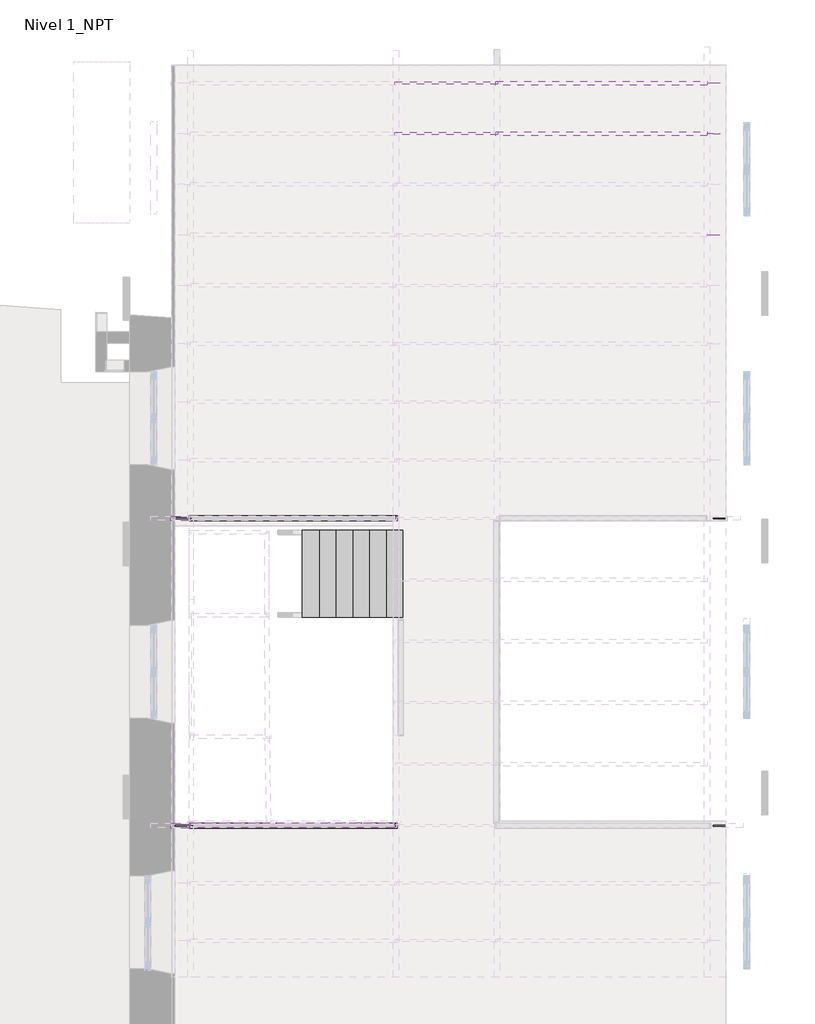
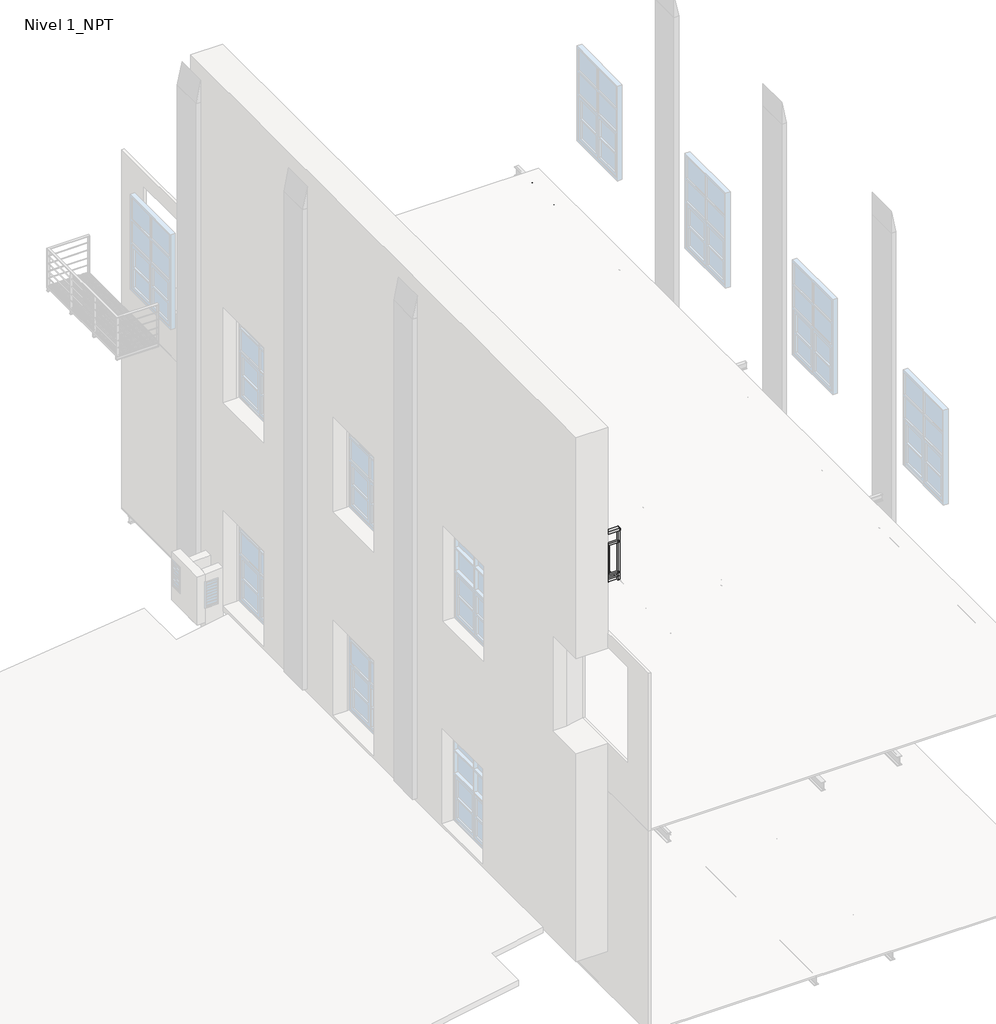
# One storey, part 4 of 6: 11 beams, 9 railings, 1 stair flight.
"""IFC4 building model written with IfcOpenShell, lengths in millimetres."""

from ifc_helpers import new_model, si_unit, point, frame, frame_2d, origin, place, context, project, spatial, polyline, circle_curve, trimmed, segment, composite_curve, outline, extrude, faceted_brep, transform, mapped, element, save
from components import est_perf_ace_est_perf_ace_652393f0, ipn_140_a066fb9f, ipn_140_caa7bbf7, est_vi_ipn_140_41f6773e, ipn_80_bbd9ff88, ipn_80_dc9e7507, railing_5429e01b, railing_628c0022, railing_fbd68230, railing_c106fec5, stair_flight_f9d3aef3

model = new_model("IFC4")

# Units and contexts
model_context = context("Model", 3, world=origin())
ifc_project = project(units=[si_unit("LENGTHUNIT", "METRE", prefix="MILLI")], contexts=[model_context])

# Site, building, storey
site = spatial("IfcSite", under=ifc_project)
building = spatial("IfcBuilding", under=site)
storey = spatial("IfcBuildingStorey", under=building, Name="Nivel 1_NPT", Elevation=4940.0)

# Beams
placement = place(None, origin())
est_perf_ace_est_perf_ace_shape = est_perf_ace_est_perf_ace_652393f0(model_context)
element("IfcBeam", 1, ObjectType="EST-PERF-Ace : EST-PERF-Ace", at=placement, inside=storey, context=model_context, shape_type="MappedRepresentation", body=[
    mapped(est_perf_ace_est_perf_ace_shape, transform((14664.8126262, 11007.1072273, 9500.0), x_axis=(0.0, -1.0, 0.0), y_axis=(1.0, 0.0, 0.0), z_axis=(0.0, 0.0, 1.0))),
])
element("IfcBeam", 2, ObjectType="EST-PERF-Ace : EST-PERF-Ace", at=placement, inside=storey, context=model_context, shape_type="MappedRepresentation", body=[
    mapped(est_perf_ace_est_perf_ace_shape, transform((14664.8126262, 12638.1072273, 9500.0), x_axis=(0.0, -1.0, 0.0), y_axis=(1.0, 0.0, 0.0), z_axis=(0.0, 0.0, 1.0))),
])
element("IfcBeam", 3, ObjectType="EST-PERF-Ace : EST-PERF-Ace", at=placement, inside=storey, context=model_context, shape_type="MappedRepresentation", body=[
    mapped(est_perf_ace_est_perf_ace_shape, transform((14664.8126262, 13453.6072273, 9500.0), x_axis=(0.0, -1.0, 0.0), y_axis=(1.0, 0.0, 0.0), z_axis=(0.0, 0.0, 1.0))),
])
ipn_140_shape = ipn_140_a066fb9f(model_context)
element("IfcBeam", 4, ObjectType="IPN - Secciones en I con alas cónicas : IPN 140", at=placement, inside=storey, context=model_context, shape_type="MappedRepresentation", body=[
    mapped(ipn_140_shape, transform((13119.8126262, 12638.1072273, 4840.0), x_axis=(1.0, 0.0, 0.0), y_axis=(0.0, 1.0, 0.0), z_axis=(0.0, 0.0, 1.0))),
])
ipn_140_2_shape = ipn_140_caa7bbf7(model_context)
element("IfcBeam", 5, ObjectType="IPN - Secciones en I con alas cónicas : IPN 140", at=placement, inside=storey, context=model_context, shape_type="MappedRepresentation", body=[
    mapped(ipn_140_2_shape, transform((13054.2181823, 13453.6072273, 4840.0), x_axis=(1.0, 0.0, 0.0), y_axis=(0.0, 1.0, 0.0), z_axis=(0.0, 0.0, 1.0))),
])
est_vi_ipn_140_shape = est_vi_ipn_140_41f6773e(model_context)
element("IfcBeam", 6, ObjectType="IPN - Secciones en I con alas cónicas : IPN 140", at=placement, inside=storey, context=model_context, shape_type="MappedRepresentation", body=[
    mapped(est_vi_ipn_140_shape, transform((12969.8126262, 13453.6072273, 9400.0), x_axis=(1.0, 0.0, 0.0), y_axis=(0.0, 1.0, 0.0), z_axis=(0.0, 0.0, 1.0))),
])
element("IfcBeam", 7, ObjectType="IPN - Secciones en I con alas cónicas : IPN 140", at=placement, inside=storey, context=model_context, shape_type="MappedRepresentation", body=[
    mapped(est_vi_ipn_140_shape, transform((12969.8126262, 12638.1072273, 9400.0), x_axis=(1.0, 0.0, 0.0), y_axis=(0.0, 1.0, 0.0), z_axis=(0.0, 0.0, 1.0))),
])
ipn_80_shape = ipn_80_bbd9ff88(model_context)
element("IfcBeam", 8, ObjectType="IPN - Secciones en I con alas cónicas : IPN 80", at=placement, inside=storey, context=model_context, shape_type="MappedRepresentation", body=[
    mapped(ipn_80_shape, transform((10459.8126262, 12638.1072273, 4870.0), x_axis=(1.0, 0.0, 0.0), y_axis=(0.0, 1.0, 0.0), z_axis=(0.0, 0.0, 1.0))),
])
element("IfcBeam", 9, ObjectType="IPN - Secciones en I con alas cónicas : IPN 80", at=placement, inside=storey, context=model_context, shape_type="MappedRepresentation", body=[
    mapped(ipn_80_shape, transform((10459.8126262, 13453.6072273, 9430.0), x_axis=(1.0, 0.0, 0.0), y_axis=(0.0, 1.0, 0.0), z_axis=(0.0, 0.0, 1.0))),
])
element("IfcBeam", 10, ObjectType="IPN - Secciones en I con alas cónicas : IPN 80", at=placement, inside=storey, context=model_context, shape_type="MappedRepresentation", body=[
    mapped(ipn_80_shape, transform((10459.8126262, 12638.1072273, 9430.0), x_axis=(1.0, 0.0, 0.0), y_axis=(0.0, 1.0, 0.0), z_axis=(0.0, 0.0, 1.0))),
])
ipn_80_2_shape = ipn_80_dc9e7507(model_context)
element("IfcBeam", 11, ObjectType="IPN - Secciones en I con alas cónicas : IPN 80", at=placement, inside=storey, context=model_context, shape_type="MappedRepresentation", body=[
    mapped(ipn_80_2_shape, transform((10452.8126262, 13453.6072273, 4870.0), x_axis=(1.0, 0.0, 0.0), y_axis=(0.0, 1.0, 0.0), z_axis=(0.0, 0.0, 1.0))),
])

# Railings
element("IfcRailing", 12, ObjectType="ARQ-BA-IN-118-Hi-Ba1", at=placement, inside=storey, context=model_context, shape_type="SolidModel", body=[
    faceted_brep([(9664.8126262, 1444.5940615, 6120.0), (9664.8126262, 1444.5940615, 6070.0), (9664.8126262, 1524.5940615, 6070.0), (9664.8126262, 1524.5940615, 6120.0), (9644.8126262, 1444.5940615, 6120.0), (9644.8126262, 1444.5940615, 6070.0), (9644.8126262, 1524.5940615, 6070.0), (9644.8126262, 1524.5940615, 6120.0), (6335.090709, 1444.5940615, 6120.0), (6335.090709, 1444.5940615, 6070.0), (6335.090709, 1524.5940615, 6070.0), (6335.090709, 1524.5940615, 6120.0), (6315.090709, 1444.5940615, 6120.0), (6315.090709, 1524.5940615, 6120.0), (6315.090709, 1524.5940615, 6070.0), (6315.090709, 1444.5940615, 6070.0)], [[[0, 1, 2, 3]], [[1, 0, 4, 5]], [[2, 1, 5, 6]], [[3, 2, 6, 7]], [[0, 3, 7, 4]], [[5, 4, 8, 9]], [[6, 5, 9, 10]], [[7, 6, 10, 11]], [[4, 7, 11, 8]], [[12, 13, 14, 15]], [[9, 8, 12, 15]], [[10, 9, 15, 14]], [[11, 10, 14, 13]], [[8, 11, 13, 12]]]),
    extrude(outline(polyline([(9644.8126262, 1504.5940615), (9644.8126262, 1464.5940615), (6335.090709, 1464.5940615), (6335.090709, 1504.5940615), (9644.8126262, 1504.5940615)])), frame((0.0, 0.0, 5800.0), z_axis=(0.0, 0.0, 1.0), x_axis=(1.0, 0.0, 0.0)), (0.0, 0.0, 1.0), 40.0),
    extrude(outline(polyline([(9644.8126262, 1504.5940615), (9644.8126262, 1464.5940615), (6335.090709, 1464.5940615), (6335.090709, 1504.5940615), (9644.8126262, 1504.5940615)])), frame((0.0, 0.0, 5100.0), z_axis=(0.0, 0.0, 1.0), x_axis=(1.0, 0.0, 0.0)), (0.0, 0.0, 1.0), 40.0),
    extrude(outline(polyline([(9644.8126262, 1504.5940615), (9644.8126262, 1464.5940615), (6335.090709, 1464.5940615), (6335.090709, 1504.5940615), (9644.8126262, 1504.5940615)])), frame((0.0, 0.0, 5034.0), z_axis=(0.0, 0.0, 1.0), x_axis=(1.0, 0.0, 0.0)), (0.0, 0.0, 1.0), 6.0),
    extrude(outline(composite_curve([segment(trimmed(circle_curve(frame_2d((6541.9483288, 1484.5940615)), 10.0), [point((6541.9483288, 1474.5940615))], [point((6541.9483288, 1494.5940615))], False, "CARTESIAN"), True, "CONTINUOUS"), segment(trimmed(circle_curve(frame_2d((6541.9483288, 1484.5940615)), 10.0), [point((6541.9483288, 1494.5940615))], [point((6541.9483288, 1474.5940615))], False, "CARTESIAN"), True, "CONTINUOUS")], self_intersect=False)), frame((0.0, 0.0, 5140.0), z_axis=(0.0, 0.0, 1.0), x_axis=(1.0, 0.0, 0.0)), (0.0, 0.0, 1.0), 660.0),
    extrude(outline(composite_curve([segment(trimmed(circle_curve(frame_2d((6748.8059486, 1484.5940615)), 10.0), [point((6748.8059486, 1474.5940615))], [point((6748.8059486, 1494.5940615))], False, "CARTESIAN"), True, "CONTINUOUS"), segment(trimmed(circle_curve(frame_2d((6748.8059486, 1484.5940615)), 10.0), [point((6748.8059486, 1494.5940615))], [point((6748.8059486, 1474.5940615))], False, "CARTESIAN"), True, "CONTINUOUS")], self_intersect=False)), frame((0.0, 0.0, 5140.0), z_axis=(0.0, 0.0, 1.0), x_axis=(1.0, 0.0, 0.0)), (0.0, 0.0, 1.0), 660.0),
    extrude(outline(composite_curve([segment(trimmed(circle_curve(frame_2d((6955.6635684, 1484.5940615)), 10.0), [point((6955.6635684, 1474.5940615))], [point((6955.6635684, 1494.5940615))], False, "CARTESIAN"), True, "CONTINUOUS"), segment(trimmed(circle_curve(frame_2d((6955.6635684, 1484.5940615)), 10.0), [point((6955.6635684, 1494.5940615))], [point((6955.6635684, 1474.5940615))], False, "CARTESIAN"), True, "CONTINUOUS")], self_intersect=False)), frame((0.0, 0.0, 5140.0), z_axis=(0.0, 0.0, 1.0), x_axis=(1.0, 0.0, 0.0)), (0.0, 0.0, 1.0), 660.0),
    extrude(outline(polyline([(7182.5211883, 1504.5940615), (7182.5211883, 1464.5940615), (7142.5211883, 1464.5940615), (7142.5211883, 1504.5940615), (7182.5211883, 1504.5940615)])), frame((0.0, 0.0, 4940.0), z_axis=(0.0, 0.0, 1.0), x_axis=(1.0, 0.0, 0.0)), (0.0, 0.0, 1.0), 1130.0),
    extrude(outline(composite_curve([segment(trimmed(circle_curve(frame_2d((7369.3788081, 1484.5940615)), 10.0), [point((7369.3788081, 1474.5940615))], [point((7369.3788081, 1494.5940615))], False, "CARTESIAN"), True, "CONTINUOUS"), segment(trimmed(circle_curve(frame_2d((7369.3788081, 1484.5940615)), 10.0), [point((7369.3788081, 1494.5940615))], [point((7369.3788081, 1474.5940615))], False, "CARTESIAN"), True, "CONTINUOUS")], self_intersect=False)), frame((0.0, 0.0, 5140.0), z_axis=(0.0, 0.0, 1.0), x_axis=(1.0, 0.0, 0.0)), (0.0, 0.0, 1.0), 660.0),
    extrude(outline(composite_curve([segment(trimmed(circle_curve(frame_2d((7576.2364279, 1484.5940615)), 10.0), [point((7576.2364279, 1474.5940615))], [point((7576.2364279, 1494.5940615))], False, "CARTESIAN"), True, "CONTINUOUS"), segment(trimmed(circle_curve(frame_2d((7576.2364279, 1484.5940615)), 10.0), [point((7576.2364279, 1494.5940615))], [point((7576.2364279, 1474.5940615))], False, "CARTESIAN"), True, "CONTINUOUS")], self_intersect=False)), frame((0.0, 0.0, 5140.0), z_axis=(0.0, 0.0, 1.0), x_axis=(1.0, 0.0, 0.0)), (0.0, 0.0, 1.0), 660.0),
    extrude(outline(composite_curve([segment(trimmed(circle_curve(frame_2d((7783.0940477, 1484.5940615)), 10.0), [point((7783.0940477, 1474.5940615))], [point((7783.0940477, 1494.5940615))], False, "CARTESIAN"), True, "CONTINUOUS"), segment(trimmed(circle_curve(frame_2d((7783.0940477, 1484.5940615)), 10.0), [point((7783.0940477, 1494.5940615))], [point((7783.0940477, 1474.5940615))], False, "CARTESIAN"), True, "CONTINUOUS")], self_intersect=False)), frame((0.0, 0.0, 5140.0), z_axis=(0.0, 0.0, 1.0), x_axis=(1.0, 0.0, 0.0)), (0.0, 0.0, 1.0), 660.0),
    extrude(outline(polyline([(8009.9516676, 1504.5940615), (8009.9516676, 1464.5940615), (7969.9516676, 1464.5940615), (7969.9516676, 1504.5940615), (8009.9516676, 1504.5940615)])), frame((0.0, 0.0, 4940.0), z_axis=(0.0, 0.0, 1.0), x_axis=(1.0, 0.0, 0.0)), (0.0, 0.0, 1.0), 1130.0),
    extrude(outline(composite_curve([segment(trimmed(circle_curve(frame_2d((8196.8092874, 1484.5940615)), 10.0), [point((8196.8092874, 1474.5940615))], [point((8196.8092874, 1494.5940615))], False, "CARTESIAN"), True, "CONTINUOUS"), segment(trimmed(circle_curve(frame_2d((8196.8092874, 1484.5940615)), 10.0), [point((8196.8092874, 1494.5940615))], [point((8196.8092874, 1474.5940615))], False, "CARTESIAN"), True, "CONTINUOUS")], self_intersect=False)), frame((0.0, 0.0, 5140.0), z_axis=(0.0, 0.0, 1.0), x_axis=(1.0, 0.0, 0.0)), (0.0, 0.0, 1.0), 660.0),
    extrude(outline(composite_curve([segment(trimmed(circle_curve(frame_2d((8403.6669072, 1484.5940615)), 10.0), [point((8403.6669072, 1474.5940615))], [point((8403.6669072, 1494.5940615))], False, "CARTESIAN"), True, "CONTINUOUS"), segment(trimmed(circle_curve(frame_2d((8403.6669072, 1484.5940615)), 10.0), [point((8403.6669072, 1494.5940615))], [point((8403.6669072, 1474.5940615))], False, "CARTESIAN"), True, "CONTINUOUS")], self_intersect=False)), frame((0.0, 0.0, 5140.0), z_axis=(0.0, 0.0, 1.0), x_axis=(1.0, 0.0, 0.0)), (0.0, 0.0, 1.0), 660.0),
    extrude(outline(composite_curve([segment(trimmed(circle_curve(frame_2d((8610.5245271, 1484.5940615)), 10.0), [point((8610.5245271, 1474.5940615))], [point((8610.5245271, 1494.5940615))], False, "CARTESIAN"), True, "CONTINUOUS"), segment(trimmed(circle_curve(frame_2d((8610.5245271, 1484.5940615)), 10.0), [point((8610.5245271, 1494.5940615))], [point((8610.5245271, 1474.5940615))], False, "CARTESIAN"), True, "CONTINUOUS")], self_intersect=False)), frame((0.0, 0.0, 5140.0), z_axis=(0.0, 0.0, 1.0), x_axis=(1.0, 0.0, 0.0)), (0.0, 0.0, 1.0), 660.0),
    extrude(outline(polyline([(8837.3821469, 1504.5940615), (8837.3821469, 1464.5940615), (8797.3821469, 1464.5940615), (8797.3821469, 1504.5940615), (8837.3821469, 1504.5940615)])), frame((0.0, 0.0, 4940.0), z_axis=(0.0, 0.0, 1.0), x_axis=(1.0, 0.0, 0.0)), (0.0, 0.0, 1.0), 1130.0),
    extrude(outline(composite_curve([segment(trimmed(circle_curve(frame_2d((9024.2397667, 1484.5940615)), 10.0), [point((9024.2397667, 1474.5940615))], [point((9024.2397667, 1494.5940615))], False, "CARTESIAN"), True, "CONTINUOUS"), segment(trimmed(circle_curve(frame_2d((9024.2397667, 1484.5940615)), 10.0), [point((9024.2397667, 1494.5940615))], [point((9024.2397667, 1474.5940615))], False, "CARTESIAN"), True, "CONTINUOUS")], self_intersect=False)), frame((0.0, 0.0, 5140.0), z_axis=(0.0, 0.0, 1.0), x_axis=(1.0, 0.0, 0.0)), (0.0, 0.0, 1.0), 660.0),
    extrude(outline(composite_curve([segment(trimmed(circle_curve(frame_2d((9231.0973865, 1484.5940615)), 10.0), [point((9231.0973865, 1474.5940615))], [point((9231.0973865, 1494.5940615))], False, "CARTESIAN"), True, "CONTINUOUS"), segment(trimmed(circle_curve(frame_2d((9231.0973865, 1484.5940615)), 10.0), [point((9231.0973865, 1494.5940615))], [point((9231.0973865, 1474.5940615))], False, "CARTESIAN"), True, "CONTINUOUS")], self_intersect=False)), frame((0.0, 0.0, 5140.0), z_axis=(0.0, 0.0, 1.0), x_axis=(1.0, 0.0, 0.0)), (0.0, 0.0, 1.0), 660.0),
    extrude(outline(composite_curve([segment(trimmed(circle_curve(frame_2d((9437.9550064, 1484.5940615)), 10.0), [point((9437.9550064, 1474.5940615))], [point((9437.9550064, 1494.5940615))], False, "CARTESIAN"), True, "CONTINUOUS"), segment(trimmed(circle_curve(frame_2d((9437.9550064, 1484.5940615)), 10.0), [point((9437.9550064, 1494.5940615))], [point((9437.9550064, 1474.5940615))], False, "CARTESIAN"), True, "CONTINUOUS")], self_intersect=False)), frame((0.0, 0.0, 5140.0), z_axis=(0.0, 0.0, 1.0), x_axis=(1.0, 0.0, 0.0)), (0.0, 0.0, 1.0), 660.0),
    extrude(outline(polyline([(6355.090709, 1504.5940615), (6355.090709, 1464.5940615), (6315.090709, 1464.5940615), (6315.090709, 1504.5940615), (6355.090709, 1504.5940615)])), frame((0.0, 0.0, 4940.0), z_axis=(0.0, 0.0, 1.0), x_axis=(1.0, 0.0, 0.0)), (0.0, 0.0, 1.0), 1130.0),
    extrude(outline(polyline([(9664.8126262, 1504.5940615), (9664.8126262, 1464.5940615), (9624.8126262, 1464.5940615), (9624.8126262, 1504.5940615), (9664.8126262, 1504.5940615)])), frame((0.0, 0.0, 4940.0), z_axis=(0.0, 0.0, 1.0), x_axis=(1.0, 0.0, 0.0)), (0.0, 0.0, 1.0), 1130.0),
])
element("IfcRailing", 13, ObjectType="ARQ-BA-IN-118-Hi-Ba1", at=placement, inside=storey, context=model_context, shape_type="SolidModel", body=[
    faceted_brep([(9644.8126262, 6395.6072273, 6070.0), (9644.8126262, 6395.6072273, 6120.0), (6335.3549553, 6395.6072273, 6120.0), (6335.3549553, 6395.6072273, 6070.0), (9644.8126262, 6475.6072273, 6070.0), (6335.3549553, 6475.6072273, 6070.0), (9644.8126262, 6475.6072273, 6120.0), (6335.3549553, 6475.6072273, 6120.0), (6315.3549553, 6395.6072273, 6120.0), (6315.3549553, 6475.6072273, 6120.0), (6315.3549553, 6475.6072273, 6070.0), (6315.3549553, 6395.6072273, 6070.0), (9664.8126262, 6395.6072273, 6120.0), (9664.8126262, 6395.6072273, 6070.0), (9664.8126262, 6475.6072273, 6070.0), (9664.8126262, 6475.6072273, 6120.0)], [[[0, 1, 2, 3]], [[4, 0, 3, 5]], [[6, 4, 5, 7]], [[1, 6, 7, 2]], [[8, 9, 10, 11]], [[3, 2, 8, 11]], [[5, 3, 11, 10]], [[7, 5, 10, 9]], [[2, 7, 9, 8]], [[12, 13, 14, 15]], [[13, 12, 1, 0]], [[14, 13, 0, 4]], [[15, 14, 4, 6]], [[12, 15, 6, 1]]]),
    extrude(outline(polyline([(9644.8126262, 6455.6072273), (9644.8126262, 6415.6072273), (6335.3549553, 6415.6072273), (6335.3549553, 6455.6072273), (9644.8126262, 6455.6072273)])), frame((0.0, 0.0, 5800.0), z_axis=(0.0, 0.0, 1.0), x_axis=(1.0, 0.0, 0.0)), (0.0, 0.0, 1.0), 40.0),
    extrude(outline(polyline([(9644.8126262, 6455.6072273), (9644.8126262, 6415.6072273), (6335.3549553, 6415.6072273), (6335.3549553, 6455.6072273), (9644.8126262, 6455.6072273)])), frame((0.0, 0.0, 5100.0), z_axis=(0.0, 0.0, 1.0), x_axis=(1.0, 0.0, 0.0)), (0.0, 0.0, 1.0), 40.0),
    extrude(outline(polyline([(9644.8126262, 6455.6072273), (9644.8126262, 6415.6072273), (6335.3549553, 6415.6072273), (6335.3549553, 6455.6072273), (9644.8126262, 6455.6072273)])), frame((0.0, 0.0, 5034.0), z_axis=(0.0, 0.0, 1.0), x_axis=(1.0, 0.0, 0.0)), (0.0, 0.0, 1.0), 6.0),
    extrude(outline(composite_curve([segment(trimmed(circle_curve(frame_2d((6542.1960597, 6435.6072273)), 10.0), [point((6542.1960597, 6425.6072273))], [point((6542.1960597, 6445.6072273))], False, "CARTESIAN"), True, "CONTINUOUS"), segment(trimmed(circle_curve(frame_2d((6542.1960597, 6435.6072273)), 10.0), [point((6542.1960597, 6445.6072273))], [point((6542.1960597, 6425.6072273))], False, "CARTESIAN"), True, "CONTINUOUS")], self_intersect=False)), frame((0.0, 0.0, 5140.0), z_axis=(0.0, 0.0, 1.0), x_axis=(1.0, 0.0, 0.0)), (0.0, 0.0, 1.0), 660.0),
    extrude(outline(composite_curve([segment(trimmed(circle_curve(frame_2d((6749.0371641, 6435.6072273)), 10.0), [point((6749.0371641, 6425.6072273))], [point((6749.0371641, 6445.6072273))], False, "CARTESIAN"), True, "CONTINUOUS"), segment(trimmed(circle_curve(frame_2d((6749.0371641, 6435.6072273)), 10.0), [point((6749.0371641, 6445.6072273))], [point((6749.0371641, 6425.6072273))], False, "CARTESIAN"), True, "CONTINUOUS")], self_intersect=False)), frame((0.0, 0.0, 5140.0), z_axis=(0.0, 0.0, 1.0), x_axis=(1.0, 0.0, 0.0)), (0.0, 0.0, 1.0), 660.0),
    extrude(outline(composite_curve([segment(trimmed(circle_curve(frame_2d((6955.8782686, 6435.6072273)), 10.0), [point((6955.8782686, 6425.6072273))], [point((6955.8782686, 6445.6072273))], False, "CARTESIAN"), True, "CONTINUOUS"), segment(trimmed(circle_curve(frame_2d((6955.8782686, 6435.6072273)), 10.0), [point((6955.8782686, 6445.6072273))], [point((6955.8782686, 6425.6072273))], False, "CARTESIAN"), True, "CONTINUOUS")], self_intersect=False)), frame((0.0, 0.0, 5140.0), z_axis=(0.0, 0.0, 1.0), x_axis=(1.0, 0.0, 0.0)), (0.0, 0.0, 1.0), 660.0),
    extrude(outline(polyline([(7182.719373, 6455.6072273), (7182.719373, 6415.6072273), (7142.719373, 6415.6072273), (7142.719373, 6455.6072273), (7182.719373, 6455.6072273)])), frame((0.0, 0.0, 4940.0), z_axis=(0.0, 0.0, 1.0), x_axis=(1.0, 0.0, 0.0)), (0.0, 0.0, 1.0), 1130.0),
    extrude(outline(composite_curve([segment(trimmed(circle_curve(frame_2d((7369.5604774, 6435.6072273)), 10.0), [point((7369.5604774, 6425.6072273))], [point((7369.5604774, 6445.6072273))], False, "CARTESIAN"), True, "CONTINUOUS"), segment(trimmed(circle_curve(frame_2d((7369.5604774, 6435.6072273)), 10.0), [point((7369.5604774, 6445.6072273))], [point((7369.5604774, 6425.6072273))], False, "CARTESIAN"), True, "CONTINUOUS")], self_intersect=False)), frame((0.0, 0.0, 5140.0), z_axis=(0.0, 0.0, 1.0), x_axis=(1.0, 0.0, 0.0)), (0.0, 0.0, 1.0), 660.0),
    extrude(outline(composite_curve([segment(trimmed(circle_curve(frame_2d((7576.4015819, 6435.6072273)), 10.0), [point((7576.4015819, 6425.6072273))], [point((7576.4015819, 6445.6072273))], False, "CARTESIAN"), True, "CONTINUOUS"), segment(trimmed(circle_curve(frame_2d((7576.4015819, 6435.6072273)), 10.0), [point((7576.4015819, 6445.6072273))], [point((7576.4015819, 6425.6072273))], False, "CARTESIAN"), True, "CONTINUOUS")], self_intersect=False)), frame((0.0, 0.0, 5140.0), z_axis=(0.0, 0.0, 1.0), x_axis=(1.0, 0.0, 0.0)), (0.0, 0.0, 1.0), 660.0),
    extrude(outline(composite_curve([segment(trimmed(circle_curve(frame_2d((7783.2426863, 6435.6072273)), 10.0), [point((7783.2426863, 6425.6072273))], [point((7783.2426863, 6445.6072273))], False, "CARTESIAN"), True, "CONTINUOUS"), segment(trimmed(circle_curve(frame_2d((7783.2426863, 6435.6072273)), 10.0), [point((7783.2426863, 6445.6072273))], [point((7783.2426863, 6425.6072273))], False, "CARTESIAN"), True, "CONTINUOUS")], self_intersect=False)), frame((0.0, 0.0, 5140.0), z_axis=(0.0, 0.0, 1.0), x_axis=(1.0, 0.0, 0.0)), (0.0, 0.0, 1.0), 660.0),
    extrude(outline(polyline([(8010.0837907, 6455.6072273), (8010.0837907, 6415.6072273), (7970.0837907, 6415.6072273), (7970.0837907, 6455.6072273), (8010.0837907, 6455.6072273)])), frame((0.0, 0.0, 4940.0), z_axis=(0.0, 0.0, 1.0), x_axis=(1.0, 0.0, 0.0)), (0.0, 0.0, 1.0), 1130.0),
    extrude(outline(composite_curve([segment(trimmed(circle_curve(frame_2d((8196.9248952, 6435.6072273)), 10.0), [point((8196.9248952, 6425.6072273))], [point((8196.9248952, 6445.6072273))], False, "CARTESIAN"), True, "CONTINUOUS"), segment(trimmed(circle_curve(frame_2d((8196.9248952, 6435.6072273)), 10.0), [point((8196.9248952, 6445.6072273))], [point((8196.9248952, 6425.6072273))], False, "CARTESIAN"), True, "CONTINUOUS")], self_intersect=False)), frame((0.0, 0.0, 5140.0), z_axis=(0.0, 0.0, 1.0), x_axis=(1.0, 0.0, 0.0)), (0.0, 0.0, 1.0), 660.0),
    extrude(outline(composite_curve([segment(trimmed(circle_curve(frame_2d((8403.7659996, 6435.6072273)), 10.0), [point((8403.7659996, 6425.6072273))], [point((8403.7659996, 6445.6072273))], False, "CARTESIAN"), True, "CONTINUOUS"), segment(trimmed(circle_curve(frame_2d((8403.7659996, 6435.6072273)), 10.0), [point((8403.7659996, 6445.6072273))], [point((8403.7659996, 6425.6072273))], False, "CARTESIAN"), True, "CONTINUOUS")], self_intersect=False)), frame((0.0, 0.0, 5140.0), z_axis=(0.0, 0.0, 1.0), x_axis=(1.0, 0.0, 0.0)), (0.0, 0.0, 1.0), 660.0),
    extrude(outline(composite_curve([segment(trimmed(circle_curve(frame_2d((8610.607104, 6435.6072273)), 10.0), [point((8610.607104, 6425.6072273))], [point((8610.607104, 6445.6072273))], False, "CARTESIAN"), True, "CONTINUOUS"), segment(trimmed(circle_curve(frame_2d((8610.607104, 6435.6072273)), 10.0), [point((8610.607104, 6445.6072273))], [point((8610.607104, 6425.6072273))], False, "CARTESIAN"), True, "CONTINUOUS")], self_intersect=False)), frame((0.0, 0.0, 5140.0), z_axis=(0.0, 0.0, 1.0), x_axis=(1.0, 0.0, 0.0)), (0.0, 0.0, 1.0), 660.0),
    extrude(outline(polyline([(8837.4482085, 6455.6072273), (8837.4482085, 6415.6072273), (8797.4482085, 6415.6072273), (8797.4482085, 6455.6072273), (8837.4482085, 6455.6072273)])), frame((0.0, 0.0, 4940.0), z_axis=(0.0, 0.0, 1.0), x_axis=(1.0, 0.0, 0.0)), (0.0, 0.0, 1.0), 1130.0),
    extrude(outline(composite_curve([segment(trimmed(circle_curve(frame_2d((9024.2893129, 6435.6072273)), 10.0), [point((9024.2893129, 6425.6072273))], [point((9024.2893129, 6445.6072273))], False, "CARTESIAN"), True, "CONTINUOUS"), segment(trimmed(circle_curve(frame_2d((9024.2893129, 6435.6072273)), 10.0), [point((9024.2893129, 6445.6072273))], [point((9024.2893129, 6425.6072273))], False, "CARTESIAN"), True, "CONTINUOUS")], self_intersect=False)), frame((0.0, 0.0, 5140.0), z_axis=(0.0, 0.0, 1.0), x_axis=(1.0, 0.0, 0.0)), (0.0, 0.0, 1.0), 660.0),
    extrude(outline(composite_curve([segment(trimmed(circle_curve(frame_2d((9231.1304173, 6435.6072273)), 10.0), [point((9231.1304173, 6425.6072273))], [point((9231.1304173, 6445.6072273))], False, "CARTESIAN"), True, "CONTINUOUS"), segment(trimmed(circle_curve(frame_2d((9231.1304173, 6435.6072273)), 10.0), [point((9231.1304173, 6445.6072273))], [point((9231.1304173, 6425.6072273))], False, "CARTESIAN"), True, "CONTINUOUS")], self_intersect=False)), frame((0.0, 0.0, 5140.0), z_axis=(0.0, 0.0, 1.0), x_axis=(1.0, 0.0, 0.0)), (0.0, 0.0, 1.0), 660.0),
    extrude(outline(composite_curve([segment(trimmed(circle_curve(frame_2d((9437.9715218, 6435.6072273)), 10.0), [point((9437.9715218, 6425.6072273))], [point((9437.9715218, 6445.6072273))], False, "CARTESIAN"), True, "CONTINUOUS"), segment(trimmed(circle_curve(frame_2d((9437.9715218, 6435.6072273)), 10.0), [point((9437.9715218, 6445.6072273))], [point((9437.9715218, 6425.6072273))], False, "CARTESIAN"), True, "CONTINUOUS")], self_intersect=False)), frame((0.0, 0.0, 5140.0), z_axis=(0.0, 0.0, 1.0), x_axis=(1.0, 0.0, 0.0)), (0.0, 0.0, 1.0), 660.0),
    extrude(outline(polyline([(6355.3549553, 6455.6072273), (6355.3549553, 6415.6072273), (6315.3549553, 6415.6072273), (6315.3549553, 6455.6072273), (6355.3549553, 6455.6072273)])), frame((0.0, 0.0, 4940.0), z_axis=(0.0, 0.0, 1.0), x_axis=(1.0, 0.0, 0.0)), (0.0, 0.0, 1.0), 1130.0),
    extrude(outline(polyline([(9664.8126262, 6455.6072273), (9664.8126262, 6415.6072273), (9624.8126262, 6415.6072273), (9624.8126262, 6455.6072273), (9664.8126262, 6455.6072273)])), frame((0.0, 0.0, 4940.0), z_axis=(0.0, 0.0, 1.0), x_axis=(1.0, 0.0, 0.0)), (0.0, 0.0, 1.0), 1130.0),
])
element("IfcRailing", 14, ObjectType="ARQ-BA-IN-HiGal-Varillas 2", at=placement, inside=storey, context=model_context, shape_type="SolidModel", body=[
    faceted_brep([(6334.2897792, 6394.6072273, 10680.0), (6334.2897792, 6394.6072273, 10630.0), (6334.2897792, 6474.6072273, 10630.0), (6334.2897792, 6474.6072273, 10680.0), (6314.2897792, 6394.6072273, 10680.0), (6314.2897792, 6394.6072273, 10630.0), (6314.2897792, 6474.6072273, 10630.0), (6314.2897792, 6474.6072273, 10680.0), (6034.2897792, 6394.6072273, 10680.0), (6034.2897792, 6394.6072273, 10630.0), (6034.2897792, 6474.6072273, 10630.0), (6034.2897792, 6474.6072273, 10680.0), (6014.2897792, 6394.6072273, 10680.0), (6014.2897792, 6474.6072273, 10680.0), (6014.2897792, 6474.6072273, 10630.0), (6014.2897792, 6394.6072273, 10630.0)], [[[0, 1, 2, 3]], [[1, 0, 4, 5]], [[2, 1, 5, 6]], [[3, 2, 6, 7]], [[0, 3, 7, 4]], [[5, 4, 8, 9]], [[6, 5, 9, 10]], [[7, 6, 10, 11]], [[4, 7, 11, 8]], [[12, 13, 14, 15]], [[9, 8, 12, 15]], [[10, 9, 15, 14]], [[11, 10, 14, 13]], [[8, 11, 13, 12]]]),
    extrude(outline(composite_curve([segment(trimmed(circle_curve(frame_2d((6434.6072273, 10432.5)), 7.5), [point((6427.1072273, 10432.5))], [point((6442.1072273, 10432.5))], False, "CARTESIAN"), True, "CONTINUOUS"), segment(trimmed(circle_curve(frame_2d((6434.6072273, 10432.5)), 7.5), [point((6442.1072273, 10432.5))], [point((6427.1072273, 10432.5))], False, "CARTESIAN"), True, "CONTINUOUS")], self_intersect=False)), frame((6034.2897792, 0.0, 0.0), z_axis=(1.0, 0.0, 0.0), x_axis=(0.0, 1.0, 0.0)), (0.0, 0.0, 1.0), 280.0),
    extrude(outline(composite_curve([segment(trimmed(circle_curve(frame_2d((6434.6072273, 10222.5)), 7.5), [point((6427.1072273, 10222.5))], [point((6442.1072273, 10222.5))], False, "CARTESIAN"), True, "CONTINUOUS"), segment(trimmed(circle_curve(frame_2d((6434.6072273, 10222.5)), 7.5), [point((6442.1072273, 10222.5))], [point((6427.1072273, 10222.5))], False, "CARTESIAN"), True, "CONTINUOUS")], self_intersect=False)), frame((6034.2897792, 0.0, 0.0), z_axis=(1.0, 0.0, 0.0), x_axis=(0.0, 1.0, 0.0)), (0.0, 0.0, 1.0), 280.0),
    extrude(outline(composite_curve([segment(trimmed(circle_curve(frame_2d((6434.6072273, 9992.5)), 7.5), [point((6427.1072273, 9992.5))], [point((6442.1072273, 9992.5))], False, "CARTESIAN"), True, "CONTINUOUS"), segment(trimmed(circle_curve(frame_2d((6434.6072273, 9992.5)), 7.5), [point((6442.1072273, 9992.5))], [point((6427.1072273, 9992.5))], False, "CARTESIAN"), True, "CONTINUOUS")], self_intersect=False)), frame((6034.2897792, 0.0, 0.0), z_axis=(1.0, 0.0, 0.0), x_axis=(0.0, 1.0, 0.0)), (0.0, 0.0, 1.0), 280.0),
    extrude(outline(composite_curve([segment(trimmed(circle_curve(frame_2d((6434.6072273, 9732.5)), 7.5), [point((6427.1072273, 9732.5))], [point((6442.1072273, 9732.5))], False, "CARTESIAN"), True, "CONTINUOUS"), segment(trimmed(circle_curve(frame_2d((6434.6072273, 9732.5)), 7.5), [point((6442.1072273, 9732.5))], [point((6427.1072273, 9732.5))], False, "CARTESIAN"), True, "CONTINUOUS")], self_intersect=False)), frame((6034.2897792, 0.0, 0.0), z_axis=(1.0, 0.0, 0.0), x_axis=(0.0, 1.0, 0.0)), (0.0, 0.0, 1.0), 280.0),
])
element("IfcRailing", 15, ObjectType="ARQ-BA-IN-HiGal-Varillas 2", at=placement, inside=storey, context=model_context, shape_type="SolidModel", body=[
    faceted_brep([(6334.2897792, 1444.6072273, 10680.0), (6334.2897792, 1444.6072273, 10630.0), (6334.2897792, 1524.6072273, 10630.0), (6334.2897792, 1524.6072273, 10680.0), (6314.2897792, 1444.6072273, 10680.0), (6314.2897792, 1444.6072273, 10630.0), (6314.2897792, 1524.6072273, 10630.0), (6314.2897792, 1524.6072273, 10680.0), (6034.2897792, 1444.6072273, 10680.0), (6034.2897792, 1444.6072273, 10630.0), (6034.2897792, 1524.6072273, 10630.0), (6034.2897792, 1524.6072273, 10680.0), (6014.2897792, 1444.6072273, 10680.0), (6014.2897792, 1524.6072273, 10680.0), (6014.2897792, 1524.6072273, 10630.0), (6014.2897792, 1444.6072273, 10630.0)], [[[0, 1, 2, 3]], [[1, 0, 4, 5]], [[2, 1, 5, 6]], [[3, 2, 6, 7]], [[0, 3, 7, 4]], [[5, 4, 8, 9]], [[6, 5, 9, 10]], [[7, 6, 10, 11]], [[4, 7, 11, 8]], [[12, 13, 14, 15]], [[9, 8, 12, 15]], [[10, 9, 15, 14]], [[11, 10, 14, 13]], [[8, 11, 13, 12]]]),
    extrude(outline(composite_curve([segment(trimmed(circle_curve(frame_2d((1484.6072273, 10432.5)), 7.5), [point((1477.1072273, 10432.5))], [point((1492.1072273, 10432.5))], False, "CARTESIAN"), True, "CONTINUOUS"), segment(trimmed(circle_curve(frame_2d((1484.6072273, 10432.5)), 7.5), [point((1492.1072273, 10432.5))], [point((1477.1072273, 10432.5))], False, "CARTESIAN"), True, "CONTINUOUS")], self_intersect=False)), frame((6034.2897792, 0.0, 0.0), z_axis=(1.0, 0.0, 0.0), x_axis=(0.0, 1.0, 0.0)), (0.0, 0.0, 1.0), 280.0),
    extrude(outline(composite_curve([segment(trimmed(circle_curve(frame_2d((1484.6072273, 10222.5)), 7.5), [point((1477.1072273, 10222.5))], [point((1492.1072273, 10222.5))], False, "CARTESIAN"), True, "CONTINUOUS"), segment(trimmed(circle_curve(frame_2d((1484.6072273, 10222.5)), 7.5), [point((1492.1072273, 10222.5))], [point((1477.1072273, 10222.5))], False, "CARTESIAN"), True, "CONTINUOUS")], self_intersect=False)), frame((6034.2897792, 0.0, 0.0), z_axis=(1.0, 0.0, 0.0), x_axis=(0.0, 1.0, 0.0)), (0.0, 0.0, 1.0), 280.0),
    extrude(outline(composite_curve([segment(trimmed(circle_curve(frame_2d((1484.6072273, 9992.5)), 7.5), [point((1477.1072273, 9992.5))], [point((1492.1072273, 9992.5))], False, "CARTESIAN"), True, "CONTINUOUS"), segment(trimmed(circle_curve(frame_2d((1484.6072273, 9992.5)), 7.5), [point((1492.1072273, 9992.5))], [point((1477.1072273, 9992.5))], False, "CARTESIAN"), True, "CONTINUOUS")], self_intersect=False)), frame((6034.2897792, 0.0, 0.0), z_axis=(1.0, 0.0, 0.0), x_axis=(0.0, 1.0, 0.0)), (0.0, 0.0, 1.0), 280.0),
    extrude(outline(composite_curve([segment(trimmed(circle_curve(frame_2d((1484.6072273, 9732.5)), 7.5), [point((1477.1072273, 9732.5))], [point((1492.1072273, 9732.5))], False, "CARTESIAN"), True, "CONTINUOUS"), segment(trimmed(circle_curve(frame_2d((1484.6072273, 9732.5)), 7.5), [point((1492.1072273, 9732.5))], [point((1477.1072273, 9732.5))], False, "CARTESIAN"), True, "CONTINUOUS")], self_intersect=False)), frame((6034.2897792, 0.0, 0.0), z_axis=(1.0, 0.0, 0.0), x_axis=(0.0, 1.0, 0.0)), (0.0, 0.0, 1.0), 280.0),
])
element("IfcRailing", 16, ObjectType="ARQ-BA-IN-118-Hi-Ba1", at=placement, inside=storey, context=model_context, shape_type="SolidModel", body=[
    faceted_brep([(6314.8126262, 1525.6072273, 10680.0), (6314.8126262, 1525.6072273, 10630.0), (6314.8126262, 1445.6072273, 10630.0), (6314.8126262, 1445.6072273, 10680.0), (6334.8126262, 1525.6072273, 10680.0), (6334.8126262, 1525.6072273, 10630.0), (6334.8126262, 1445.6072273, 10630.0), (6334.8126262, 1445.6072273, 10680.0), (9596.8126262, 1525.6072273, 10680.0), (9596.8126262, 1525.6072273, 10630.0), (9596.8126262, 1445.6072273, 10630.0), (9596.8126262, 1445.6072273, 10680.0), (9616.8126262, 1525.6072273, 10680.0), (9616.8126262, 1445.6072273, 10680.0), (9616.8126262, 1445.6072273, 10630.0), (9616.8126262, 1525.6072273, 10630.0)], [[[0, 1, 2, 3]], [[1, 0, 4, 5]], [[2, 1, 5, 6]], [[3, 2, 6, 7]], [[0, 3, 7, 4]], [[5, 4, 8, 9]], [[6, 5, 9, 10]], [[7, 6, 10, 11]], [[4, 7, 11, 8]], [[12, 13, 14, 15]], [[9, 8, 12, 15]], [[10, 9, 15, 14]], [[11, 10, 14, 13]], [[8, 11, 13, 12]]]),
    extrude(outline(polyline([(6334.8126262, 1465.6072273), (6334.8126262, 1505.6072273), (9596.8126262, 1505.6072273), (9596.8126262, 1465.6072273), (6334.8126262, 1465.6072273)])), frame((0.0, 0.0, 10360.0), z_axis=(0.0, 0.0, 1.0), x_axis=(1.0, 0.0, 0.0)), (0.0, 0.0, 1.0), 40.0),
    extrude(outline(polyline([(6334.8126262, 1465.6072273), (6334.8126262, 1505.6072273), (9596.8126262, 1505.6072273), (9596.8126262, 1465.6072273), (6334.8126262, 1465.6072273)])), frame((0.0, 0.0, 9660.0), z_axis=(0.0, 0.0, 1.0), x_axis=(1.0, 0.0, 0.0)), (0.0, 0.0, 1.0), 40.0),
    extrude(outline(polyline([(6334.8126262, 1465.6072273), (6334.8126262, 1505.6072273), (9596.8126262, 1505.6072273), (9596.8126262, 1465.6072273), (6334.8126262, 1465.6072273)])), frame((0.0, 0.0, 9594.0), z_axis=(0.0, 0.0, 1.0), x_axis=(1.0, 0.0, 0.0)), (0.0, 0.0, 1.0), 6.0),
    extrude(outline(composite_curve([segment(trimmed(circle_curve(frame_2d((9392.9376262, 1485.6072273)), 10.0), [point((9392.9376262, 1495.6072273))], [point((9392.9376262, 1475.6072273))], False, "CARTESIAN"), True, "CONTINUOUS"), segment(trimmed(circle_curve(frame_2d((9392.9376262, 1485.6072273)), 10.0), [point((9392.9376262, 1475.6072273))], [point((9392.9376262, 1495.6072273))], False, "CARTESIAN"), True, "CONTINUOUS")], self_intersect=False)), frame((0.0, 0.0, 9700.0), z_axis=(0.0, 0.0, 1.0), x_axis=(1.0, 0.0, 0.0)), (0.0, 0.0, 1.0), 660.0),
    extrude(outline(composite_curve([segment(trimmed(circle_curve(frame_2d((9189.0626262, 1485.6072273)), 10.0), [point((9189.0626262, 1495.6072273))], [point((9189.0626262, 1475.6072273))], False, "CARTESIAN"), True, "CONTINUOUS"), segment(trimmed(circle_curve(frame_2d((9189.0626262, 1485.6072273)), 10.0), [point((9189.0626262, 1475.6072273))], [point((9189.0626262, 1495.6072273))], False, "CARTESIAN"), True, "CONTINUOUS")], self_intersect=False)), frame((0.0, 0.0, 9700.0), z_axis=(0.0, 0.0, 1.0), x_axis=(1.0, 0.0, 0.0)), (0.0, 0.0, 1.0), 660.0),
    extrude(outline(composite_curve([segment(trimmed(circle_curve(frame_2d((8985.1876262, 1485.6072273)), 10.0), [point((8985.1876262, 1495.6072273))], [point((8985.1876262, 1475.6072273))], False, "CARTESIAN"), True, "CONTINUOUS"), segment(trimmed(circle_curve(frame_2d((8985.1876262, 1485.6072273)), 10.0), [point((8985.1876262, 1475.6072273))], [point((8985.1876262, 1495.6072273))], False, "CARTESIAN"), True, "CONTINUOUS")], self_intersect=False)), frame((0.0, 0.0, 9700.0), z_axis=(0.0, 0.0, 1.0), x_axis=(1.0, 0.0, 0.0)), (0.0, 0.0, 1.0), 660.0),
    extrude(outline(polyline([(8761.3126262, 1465.6072273), (8761.3126262, 1505.6072273), (8801.3126262, 1505.6072273), (8801.3126262, 1465.6072273), (8761.3126262, 1465.6072273)])), frame((0.0, 0.0, 9500.0), z_axis=(0.0, 0.0, 1.0), x_axis=(1.0, 0.0, 0.0)), (0.0, 0.0, 1.0), 1130.0),
    extrude(outline(composite_curve([segment(trimmed(circle_curve(frame_2d((8577.4376262, 1485.6072273)), 10.0), [point((8577.4376262, 1495.6072273))], [point((8577.4376262, 1475.6072273))], False, "CARTESIAN"), True, "CONTINUOUS"), segment(trimmed(circle_curve(frame_2d((8577.4376262, 1485.6072273)), 10.0), [point((8577.4376262, 1475.6072273))], [point((8577.4376262, 1495.6072273))], False, "CARTESIAN"), True, "CONTINUOUS")], self_intersect=False)), frame((0.0, 0.0, 9700.0), z_axis=(0.0, 0.0, 1.0), x_axis=(1.0, 0.0, 0.0)), (0.0, 0.0, 1.0), 660.0),
    extrude(outline(composite_curve([segment(trimmed(circle_curve(frame_2d((8373.5626262, 1485.6072273)), 10.0), [point((8373.5626262, 1495.6072273))], [point((8373.5626262, 1475.6072273))], False, "CARTESIAN"), True, "CONTINUOUS"), segment(trimmed(circle_curve(frame_2d((8373.5626262, 1485.6072273)), 10.0), [point((8373.5626262, 1475.6072273))], [point((8373.5626262, 1495.6072273))], False, "CARTESIAN"), True, "CONTINUOUS")], self_intersect=False)), frame((0.0, 0.0, 9700.0), z_axis=(0.0, 0.0, 1.0), x_axis=(1.0, 0.0, 0.0)), (0.0, 0.0, 1.0), 660.0),
    extrude(outline(composite_curve([segment(trimmed(circle_curve(frame_2d((8169.6876262, 1485.6072273)), 10.0), [point((8169.6876262, 1495.6072273))], [point((8169.6876262, 1475.6072273))], False, "CARTESIAN"), True, "CONTINUOUS"), segment(trimmed(circle_curve(frame_2d((8169.6876262, 1485.6072273)), 10.0), [point((8169.6876262, 1475.6072273))], [point((8169.6876262, 1495.6072273))], False, "CARTESIAN"), True, "CONTINUOUS")], self_intersect=False)), frame((0.0, 0.0, 9700.0), z_axis=(0.0, 0.0, 1.0), x_axis=(1.0, 0.0, 0.0)), (0.0, 0.0, 1.0), 660.0),
    extrude(outline(polyline([(7945.8126262, 1465.6072273), (7945.8126262, 1505.6072273), (7985.8126262, 1505.6072273), (7985.8126262, 1465.6072273), (7945.8126262, 1465.6072273)])), frame((0.0, 0.0, 9500.0), z_axis=(0.0, 0.0, 1.0), x_axis=(1.0, 0.0, 0.0)), (0.0, 0.0, 1.0), 1130.0),
    extrude(outline(composite_curve([segment(trimmed(circle_curve(frame_2d((7761.9376262, 1485.6072273)), 10.0), [point((7761.9376262, 1495.6072273))], [point((7761.9376262, 1475.6072273))], False, "CARTESIAN"), True, "CONTINUOUS"), segment(trimmed(circle_curve(frame_2d((7761.9376262, 1485.6072273)), 10.0), [point((7761.9376262, 1475.6072273))], [point((7761.9376262, 1495.6072273))], False, "CARTESIAN"), True, "CONTINUOUS")], self_intersect=False)), frame((0.0, 0.0, 9700.0), z_axis=(0.0, 0.0, 1.0), x_axis=(1.0, 0.0, 0.0)), (0.0, 0.0, 1.0), 660.0),
    extrude(outline(composite_curve([segment(trimmed(circle_curve(frame_2d((7558.0626262, 1485.6072273)), 10.0), [point((7558.0626262, 1495.6072273))], [point((7558.0626262, 1475.6072273))], False, "CARTESIAN"), True, "CONTINUOUS"), segment(trimmed(circle_curve(frame_2d((7558.0626262, 1485.6072273)), 10.0), [point((7558.0626262, 1475.6072273))], [point((7558.0626262, 1495.6072273))], False, "CARTESIAN"), True, "CONTINUOUS")], self_intersect=False)), frame((0.0, 0.0, 9700.0), z_axis=(0.0, 0.0, 1.0), x_axis=(1.0, 0.0, 0.0)), (0.0, 0.0, 1.0), 660.0),
    extrude(outline(composite_curve([segment(trimmed(circle_curve(frame_2d((7354.1876262, 1485.6072273)), 10.0), [point((7354.1876262, 1495.6072273))], [point((7354.1876262, 1475.6072273))], False, "CARTESIAN"), True, "CONTINUOUS"), segment(trimmed(circle_curve(frame_2d((7354.1876262, 1485.6072273)), 10.0), [point((7354.1876262, 1475.6072273))], [point((7354.1876262, 1495.6072273))], False, "CARTESIAN"), True, "CONTINUOUS")], self_intersect=False)), frame((0.0, 0.0, 9700.0), z_axis=(0.0, 0.0, 1.0), x_axis=(1.0, 0.0, 0.0)), (0.0, 0.0, 1.0), 660.0),
    extrude(outline(polyline([(7130.3126262, 1465.6072273), (7130.3126262, 1505.6072273), (7170.3126262, 1505.6072273), (7170.3126262, 1465.6072273), (7130.3126262, 1465.6072273)])), frame((0.0, 0.0, 9500.0), z_axis=(0.0, 0.0, 1.0), x_axis=(1.0, 0.0, 0.0)), (0.0, 0.0, 1.0), 1130.0),
    extrude(outline(composite_curve([segment(trimmed(circle_curve(frame_2d((6946.4376262, 1485.6072273)), 10.0), [point((6946.4376262, 1495.6072273))], [point((6946.4376262, 1475.6072273))], False, "CARTESIAN"), True, "CONTINUOUS"), segment(trimmed(circle_curve(frame_2d((6946.4376262, 1485.6072273)), 10.0), [point((6946.4376262, 1475.6072273))], [point((6946.4376262, 1495.6072273))], False, "CARTESIAN"), True, "CONTINUOUS")], self_intersect=False)), frame((0.0, 0.0, 9700.0), z_axis=(0.0, 0.0, 1.0), x_axis=(1.0, 0.0, 0.0)), (0.0, 0.0, 1.0), 660.0),
    extrude(outline(composite_curve([segment(trimmed(circle_curve(frame_2d((6742.5626262, 1485.6072273)), 10.0), [point((6742.5626262, 1495.6072273))], [point((6742.5626262, 1475.6072273))], False, "CARTESIAN"), True, "CONTINUOUS"), segment(trimmed(circle_curve(frame_2d((6742.5626262, 1485.6072273)), 10.0), [point((6742.5626262, 1475.6072273))], [point((6742.5626262, 1495.6072273))], False, "CARTESIAN"), True, "CONTINUOUS")], self_intersect=False)), frame((0.0, 0.0, 9700.0), z_axis=(0.0, 0.0, 1.0), x_axis=(1.0, 0.0, 0.0)), (0.0, 0.0, 1.0), 660.0),
    extrude(outline(composite_curve([segment(trimmed(circle_curve(frame_2d((6538.6876262, 1485.6072273)), 10.0), [point((6538.6876262, 1495.6072273))], [point((6538.6876262, 1475.6072273))], False, "CARTESIAN"), True, "CONTINUOUS"), segment(trimmed(circle_curve(frame_2d((6538.6876262, 1485.6072273)), 10.0), [point((6538.6876262, 1475.6072273))], [point((6538.6876262, 1495.6072273))], False, "CARTESIAN"), True, "CONTINUOUS")], self_intersect=False)), frame((0.0, 0.0, 9700.0), z_axis=(0.0, 0.0, 1.0), x_axis=(1.0, 0.0, 0.0)), (0.0, 0.0, 1.0), 660.0),
    extrude(outline(polyline([(9576.8126262, 1465.6072273), (9576.8126262, 1505.6072273), (9616.8126262, 1505.6072273), (9616.8126262, 1465.6072273), (9576.8126262, 1465.6072273)])), frame((0.0, 0.0, 9500.0), z_axis=(0.0, 0.0, 1.0), x_axis=(1.0, 0.0, 0.0)), (0.0, 0.0, 1.0), 1130.0),
    extrude(outline(polyline([(6314.8126262, 1465.6072273), (6314.8126262, 1505.6072273), (6354.8126262, 1505.6072273), (6354.8126262, 1465.6072273), (6314.8126262, 1465.6072273)])), frame((0.0, 0.0, 9500.0), z_axis=(0.0, 0.0, 1.0), x_axis=(1.0, 0.0, 0.0)), (0.0, 0.0, 1.0), 1130.0),
])
railing_shape = railing_5429e01b(model_context)
element("IfcRailing", 17, ObjectType="ARQ-BA-IN-HiGal-Varillas", at=placement, inside=storey, context=model_context, shape_type="MappedRepresentation", body=[
    mapped(railing_shape, transform((0.0, 0.0, 0.0), x_axis=(1.0, 0.0, 0.0), y_axis=(0.0, 1.0, 0.0), z_axis=(0.0, 0.0, 1.0))),
])
railing_2_shape = railing_628c0022(model_context)
element("IfcRailing", 18, ObjectType="ARQ-BA-IN-HiGal-Varillas", at=placement, inside=storey, context=model_context, shape_type="MappedRepresentation", body=[
    mapped(railing_2_shape, transform((0.0, 0.0, 0.0), x_axis=(1.0, 0.0, 0.0), y_axis=(0.0, 1.0, 0.0), z_axis=(0.0, 0.0, 1.0))),
])
railing_3_shape = railing_fbd68230(model_context)
element("IfcRailing", 19, ObjectType="ARQ-BA-IN-HiGal-Varillas", at=placement, inside=storey, context=model_context, shape_type="MappedRepresentation", body=[
    mapped(railing_3_shape, transform((0.0, 0.0, 0.0), x_axis=(1.0, 0.0, 0.0), y_axis=(0.0, 1.0, 0.0), z_axis=(0.0, 0.0, 1.0))),
])
railing_4_shape = railing_c106fec5(model_context)
element("IfcRailing", 20, ObjectType="ARQ-BA-IN-HiGal-Varillas", at=placement, inside=storey, context=model_context, shape_type="MappedRepresentation", body=[
    mapped(railing_4_shape, transform((0.0, 0.0, 0.0), x_axis=(1.0, 0.0, 0.0), y_axis=(0.0, 1.0, 0.0), z_axis=(0.0, 0.0, 1.0))),
])

# Stair flight
stair_flight_shape = stair_flight_f9d3aef3(model_context)
element("IfcStairFlight", 21, ObjectType="Sin contrahuellas", at=placement, inside=storey, context=model_context, shape_type="MappedRepresentation", body=[
    mapped(stair_flight_shape, transform((0.0, 0.0, 0.0), x_axis=(1.0, 0.0, 0.0), y_axis=(0.0, 1.0, 0.0), z_axis=(0.0, 0.0, 1.0))),
])

save(model, "model.ifc")
